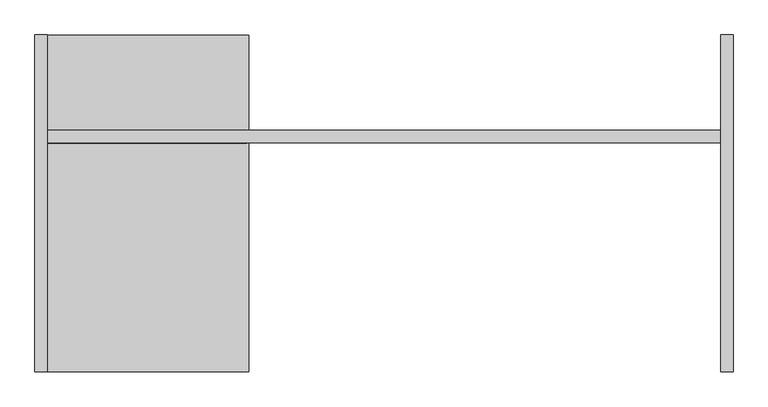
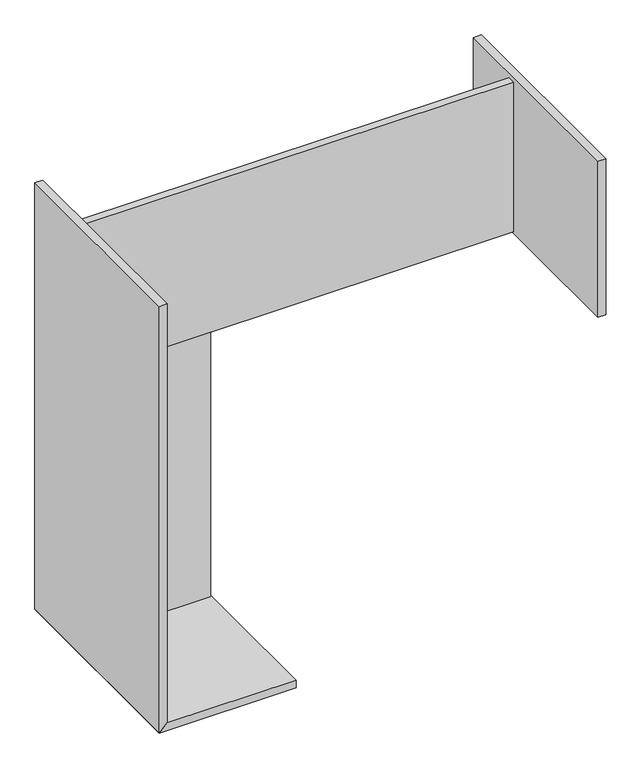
"""IFC4 building model written with IfcOpenShell, lengths in millimetres: proxy geometry, FOUNDATION^ADMIN 1_L-SHAPE-PARTS SOLID."""

from ifc_helpers import new_model, si_unit, frame, origin, place, context, project, spatial, polyline, outline, extrude, source, transform, mapped, element, save


def generic_models_8ef14ef5(model_context):
    return source(origin(), model_context, "Body", "SweptSolid", [
        extrude(outline(polyline([(-2057.4, 736.6), (-1447.8, 736.6), (-1447.8, 698.5), (-2057.4, 698.5), (-2057.4, 736.6)])), frame((0.0, 0.0, -2114.55), z_axis=(0.0, 0.0, 1.0), x_axis=(1.0, 0.0, 0.0)), (0.0, 0.0, 1.0), 1333.5),
        extrude(outline(polyline([(0.0, 736.6), (0.0, 698.5), (-2057.4, 698.5), (-2057.4, 736.6), (0.0, 736.6)])), frame((0.0, 0.0, -781.05), z_axis=(0.0, 0.0, 1.0), x_axis=(1.0, 0.0, 0.0)), (0.0, 0.0, 1.0), 755.65),
        extrude(outline(polyline([(-2152.65, -2095.5), (-2152.65, -1441.45), (-2114.55, -1441.45), (-2114.55, -2057.4), (-2152.65, -2095.5)])), frame((0.0, 0.0, 0.0), z_axis=(0.0, 1.0, 0.0), x_axis=(0.0, 0.0, 1.0)), (0.0, 0.0, 1.0), 1028.7),
        extrude(outline(polyline([(-2152.65, -2095.5), (-2114.55, -2057.4), (0.0, -2057.4), (0.0, -2095.5), (-2152.65, -2095.5)])), frame((0.0, 0.0, 0.0), z_axis=(0.0, 1.0, 0.0), x_axis=(0.0, 0.0, 1.0)), (0.0, 0.0, 1.0), 1028.7),
        extrude(outline(polyline([(0.0, 0.0), (0.0, 1028.7), (38.1, 1028.7), (38.1, 0.0), (0.0, 0.0)])), frame((0.0, 0.0, -787.4), z_axis=(0.0, 0.0, 1.0), x_axis=(1.0, 0.0, 0.0)), (0.0, 0.0, 1.0), 787.4),
    ])


if __name__ == "__main__":
    model = new_model("IFC4")
    model_context = context("Model", 3, world=origin())
    ifc_project = project(units=[si_unit("LENGTHUNIT", "METRE", prefix="MILLI")], contexts=[model_context])
    site = spatial("IfcSite", under=ifc_project)
    building = spatial("IfcBuilding", under=site)
    placement = place(None, origin())
    generic_models_shape = generic_models_8ef14ef5(model_context)
    element("IfcBuildingElementProxy", 1, Name="FOUNDATION^ADMIN 1_L-SHAPE-PARTS SOLID", ObjectType="FOUNDATION^ADMIN 1_L-SHAPE-PARTS SOLID", at=placement, inside=building, context=model_context, shape_type="MappedRepresentation", body=[
        mapped(generic_models_shape, transform((0.0, 0.0, 0.0), x_axis=(1.0, 0.0, 0.0), y_axis=(0.0, 1.0, 0.0), z_axis=(0.0, 0.0, 1.0))),
    ])
    save(model, "model.ifc")
